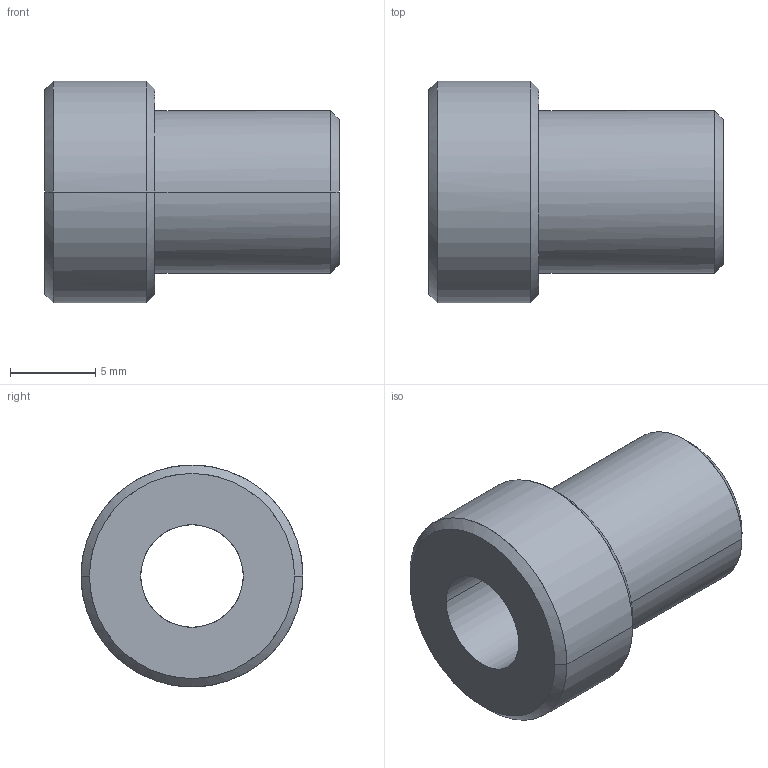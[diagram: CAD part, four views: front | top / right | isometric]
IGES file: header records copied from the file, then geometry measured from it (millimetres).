
Global section: file name: No Iges File Name specified; native system: AutoDesk Inventor R11.0; preprocessor: AutoDesk Inventor Iges Exporter R11.0; author: No Author specified; organization: No Organization specified; date: 20150221.141330; units: millimetre
Bounding box: 17.24 x 13 x 13 mm (x, y, z)
Surface area: 1086.4 mm2 (no closed solid volume)
Topology: 0 solids, 0 shells, 15 faces, 96 edges, 96 vertices
Faces by surface type: bspline 15
